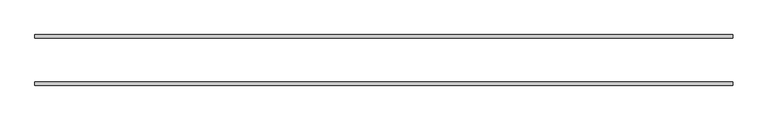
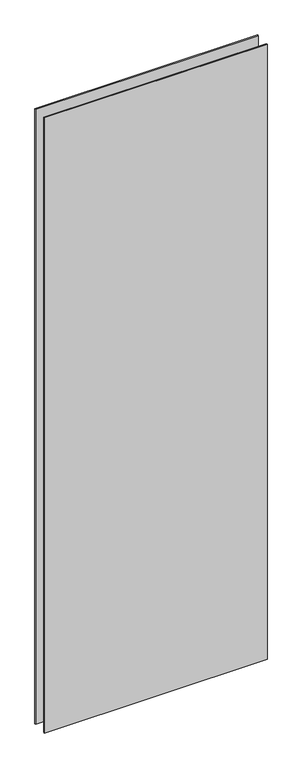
"""IFC4 building model written with IfcOpenShell, lengths in millimetres: plate geometry, VERTI PANORAMA - prosklená výplň : Prosklená výplň."""

import ifcopenshell
import ifcopenshell.guid

model = None  # the IFC model being written
_history = None  # IfcOwnerHistory: only IFC2X3 demands one
_inside = {}  # id of a spatial element -> (the spatial element, [elements in it])
_under = {}  # id of a project, library or spatial element -> (it, [spatial elements below it])
_declared = {}  # id of a project -> (the project, [libraries it declares])
_typed = {}  # id of a type object -> (the type object, [elements of that type])
_made_of = {}  # id of a material, layer set ... -> (it, [elements and type objects made of it])


def new_model(schema):
    """Start an empty IFC model of exactly this schema.

    Asked for "IFC4X3", IfcOpenShell would pick the latest addendum, in which some entities
    have other attributes; the version numbers below select the first issue.
    IFC2X3 requires an IfcOwnerHistory on every rooted entity: one is made here for all.
    """
    global model, _history
    if schema == "IFC4X3":
        model = ifcopenshell.file(schema_version=(4, 3, 0, 0))
    else:
        model = ifcopenshell.file(schema=schema)
    _inside.clear()
    _under.clear()
    _declared.clear()
    _typed.clear()
    _made_of.clear()
    _history = None
    if model.schema == "IFC2X3":
        org = make("IfcOrganization", Name="unknown")
        user = make(
            "IfcPersonAndOrganization",
            ThePerson=make("IfcPerson", FamilyName="unknown"),
            TheOrganization=org,
        )
        app = make(
            "IfcApplication",
            ApplicationDeveloper=org,
            Version="unknown",
            ApplicationFullName="unknown",
            ApplicationIdentifier="unknown",
        )
        _history = make(
            "IfcOwnerHistory",
            OwningUser=user,
            OwningApplication=app,
            ChangeAction="ADDED",
            CreationDate=0,
        )
    return model


def make(cls, **values):
    """One entity of the class cls with the attributes given. An attribute that is None is left unset."""
    return model.create_entity(
        cls, **{name: value for name, value in values.items() if value is not None}
    )


def rooted(cls, **values):
    """An entity with a GlobalId (a new one), such as an element, a storey or a relation."""
    return make(cls, GlobalId=ifcopenshell.guid.new(), OwnerHistory=_history, **values)


def si_unit(unit_type, name, prefix=None):
    """IfcSIUnit, for example si_unit("LENGTHUNIT", "METRE", prefix="MILLI")."""
    return make("IfcSIUnit", UnitType=unit_type, Prefix=prefix, Name=name)


def assignment(units):
    """IfcUnitAssignment: the units of a project."""
    return None if units is None else make("IfcUnitAssignment", Units=units)


def point(xyz):
    """IfcCartesianPoint."""
    return None if xyz is None else make("IfcCartesianPoint", Coordinates=xyz)


def direction(xyz):
    """IfcDirection."""
    return None if xyz is None else make("IfcDirection", DirectionRatios=xyz)


def frame(location, z_axis=None, x_axis=None):
    """IfcAxis2Placement3D, a coordinate frame: its origin and axes. An axis left out is left unset."""
    return make(
        "IfcAxis2Placement3D",
        Location=point(location),
        Axis=direction(z_axis),
        RefDirection=direction(x_axis),
    )


def origin():
    """The frame at (0, 0, 0) with its axes left unset."""
    return frame((0.0, 0.0, 0.0))


def origin_with_axes():
    """The frame at (0, 0, 0) with the z axis (0, 0, 1) and the x axis (1, 0, 0) written out."""
    return frame((0.0, 0.0, 0.0), z_axis=(0.0, 0.0, 1.0), x_axis=(1.0, 0.0, 0.0))


def place(relative_to, where):
    """IfcLocalPlacement: puts the frame where relative to a parent placement (None: the world)."""
    return make(
        "IfcLocalPlacement", PlacementRelTo=relative_to, RelativePlacement=where
    )


def context(
    kind, dimensions, precision=None, world=None, true_north=None, identifier=None
):
    """IfcGeometricRepresentationContext, for example the 3D "Model" context."""
    return make(
        "IfcGeometricRepresentationContext",
        ContextIdentifier=identifier,
        ContextType=kind,
        CoordinateSpaceDimension=dimensions,
        Precision=precision,
        WorldCoordinateSystem=world,
        TrueNorth=true_north,
    )


def project(units=None, contexts=None):
    """IfcProject with its units and contexts."""
    return rooted(
        "IfcProject",
        Name="project",
        RepresentationContexts=contexts,
        UnitsInContext=assignment(units),
    )


def spatial(cls, under=None, at=None, **own):
    """A site, building, storey or space (cls), placed at a placement, below another one or the project."""
    s = rooted(cls, ObjectPlacement=at, **own)
    if under is not None:
        _under.setdefault(under.id(), (under, []))[1].append(s)
    return s


def polyline(points):
    """IfcPolyline through the points."""
    return make("IfcPolyline", Points=[point(p) for p in points])


def outline(outer, holes=None, kind="AREA"):
    """IfcArbitraryClosedProfileDef: a profile drawn as a closed curve; with holes, ...WithVoids."""
    if holes is None:
        return make("IfcArbitraryClosedProfileDef", ProfileType=kind, OuterCurve=outer)
    return make(
        "IfcArbitraryProfileDefWithVoids",
        ProfileType=kind,
        OuterCurve=outer,
        InnerCurves=holes,
    )


def extrude(swept, where, along, depth):
    """IfcExtrudedAreaSolid: the profile swept, set in the frame where, extruded along a direction by depth."""
    return make(
        "IfcExtrudedAreaSolid",
        SweptArea=swept,
        Position=where,
        ExtrudedDirection=direction(along),
        Depth=depth,
    )


def shape(context_of_items, identifier, shape_type, items):
    """IfcShapeRepresentation: the items that make up one representation, for example the "Body"."""
    return make(
        "IfcShapeRepresentation",
        ContextOfItems=context_of_items,
        RepresentationIdentifier=identifier,
        RepresentationType=shape_type,
        Items=items,
    )


def source(mapping_origin, context_of_items, identifier, shape_type, items):
    """IfcRepresentationMap: a shape defined once, which mapped items show again and again."""
    return make(
        "IfcRepresentationMap",
        MappingOrigin=mapping_origin,
        MappedRepresentation=shape(context_of_items, identifier, shape_type, items),
    )


def transform(
    local_origin,
    x_axis=None,
    y_axis=None,
    z_axis=None,
    scale=None,
    scale2=None,
    scale3=None,
    uniform=True,
):
    """IfcCartesianTransformationOperator3D, or its non-uniform kind. x_axis, y_axis, z_axis: its Axis1, 2, 3."""
    if uniform:
        return make(
            "IfcCartesianTransformationOperator3D",
            Axis1=direction(x_axis),
            Axis2=direction(y_axis),
            LocalOrigin=point(local_origin),
            Scale=scale,
            Axis3=direction(z_axis),
        )
    return make(
        "IfcCartesianTransformationOperator3DnonUniform",
        Axis1=direction(x_axis),
        Axis2=direction(y_axis),
        LocalOrigin=point(local_origin),
        Scale=scale,
        Axis3=direction(z_axis),
        Scale2=scale2,
        Scale3=scale3,
    )


def mapped(mapping_source, mapping_target):
    """IfcMappedItem: shows the shape of a source again, moved by a transform."""
    return make(
        "IfcMappedItem", MappingSource=mapping_source, MappingTarget=mapping_target
    )


def made_of(thing, what):
    """Note that an element or type object is made of a material, layer set ...; save() writes the relation."""
    if what is not None:
        _made_of.setdefault(what.id(), (what, []))[1].append(thing)
    return thing


def element(
    cls,
    number,
    at=None,
    inside=None,
    cuts=None,
    type_object=None,
    material=None,
    context=None,
    identifier="Body",
    shape_type=None,
    held_by="IfcProductDefinitionShape",
    body=None,
    shapes=None,
    **own,
):
    """One element of the class cls, such as IfcWall. Its Tag is "e" and its number.

    at: its placement. inside: the storey or other place that contains it. cuts: it is an
    opening in that element (IfcRelVoidsElement). A single representation is given by context,
    identifier, shape_type and body (its items); several are given by shapes. held_by: the class
    of the entity that holds the representations. save() writes the other relations.
    """
    e = rooted(cls, Tag="e%d" % number, ObjectPlacement=at, **own)
    if body is not None:
        shapes = [shape(context, identifier, shape_type, body)]
    if shapes is not None:
        e.Representation = make(held_by, Representations=shapes)
    if inside is not None:
        _inside.setdefault(inside.id(), (inside, []))[1].append(e)
    if cuts is not None:
        rooted(
            "IfcRelVoidsElement", RelatingBuildingElement=cuts, RelatedOpeningElement=e
        )
    if type_object is not None:
        _typed.setdefault(type_object.id(), (type_object, []))[1].append(e)
    return made_of(e, material)


def aggregate(whole, parts):
    """IfcRelAggregates: a whole, such as a stair, and the parts it consists of."""
    return rooted("IfcRelAggregates", RelatingObject=whole, RelatedObjects=parts)


def save(model, path):
    """Write the relations noted so far, then the file.

    IfcRelAggregates (storeys below a building ...), IfcRelContainedInSpatialStructure (elements
    in a storey), IfcRelDefinesByType, IfcRelAssociatesMaterial and IfcRelDeclares: one each for
    every whole, place, type object, material and project.
    """
    for whole, parts in _under.values():
        aggregate(whole, parts)
    for where, things in _inside.values():
        rooted(
            "IfcRelContainedInSpatialStructure",
            RelatedElements=things,
            RelatingStructure=where,
        )
    for kind, things in _typed.values():
        rooted("IfcRelDefinesByType", RelatedObjects=things, RelatingType=kind)
    for what, things in _made_of.values():
        rooted("IfcRelAssociatesMaterial", RelatedObjects=things, RelatingMaterial=what)
    for by, libraries in _declared.values():
        rooted("IfcRelDeclares", RelatingContext=by, RelatedDefinitions=libraries)
    model.write(path)


def plate_25dafe12(model_context):
    return source(origin(), model_context, "Body", "SweptSolid", [
        extrude(outline(polyline([(500.0, 36.5), (500.0, 31.5), (-500.0, 31.5), (-500.0, 36.5), (500.0, 36.5)])), origin_with_axes(), (0.0, 0.0, 1.0), 2920.0),
        extrude(outline(polyline([(500.0, -31.5), (500.0, -36.5), (-500.0, -36.5), (-500.0, -31.5), (500.0, -31.5)])), origin_with_axes(), (0.0, 0.0, 1.0), 2920.0),
    ])


if __name__ == "__main__":
    model = new_model("IFC4")
    model_context = context("Model", 3, world=origin())
    ifc_project = project(units=[si_unit("LENGTHUNIT", "METRE", prefix="MILLI")], contexts=[model_context])
    site = spatial("IfcSite", under=ifc_project)
    building = spatial("IfcBuilding", under=site)
    placement = place(None, origin())
    plate_shape = plate_25dafe12(model_context)
    element("IfcPlate", 1, ObjectType="VERTI PANORAMA - prosklená výplň : Prosklená výplň", at=placement, inside=building, context=model_context, shape_type="MappedRepresentation", body=[
        mapped(plate_shape, transform((0.0, 0.0, 0.0), x_axis=(1.0, 0.0, 0.0), y_axis=(0.0, 1.0, 0.0), z_axis=(0.0, 0.0, 1.0))),
    ])
    save(model, "model.ifc")
